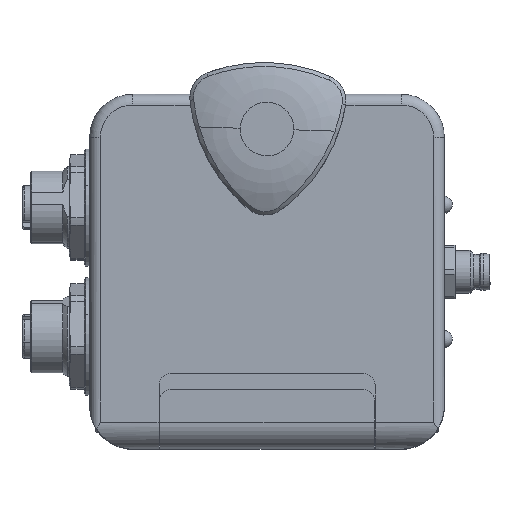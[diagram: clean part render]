
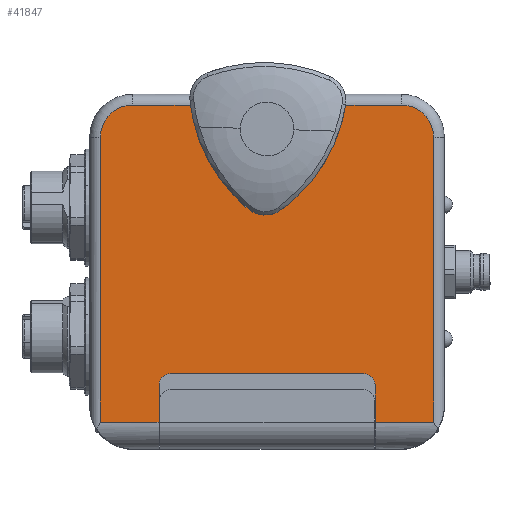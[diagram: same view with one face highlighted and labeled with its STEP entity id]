
A CAD part, top view. The second image highlights one B-rep face of the part: STEP entity #41847.
In plain terms, the highlighted planar face has unit normal (0, 0, 1) as drawn and (0, 1, 0) by its records, which use the part's own axes.
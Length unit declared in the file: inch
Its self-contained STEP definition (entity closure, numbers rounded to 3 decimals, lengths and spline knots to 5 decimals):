
#151 = ORIENTED_EDGE ( 'NONE', *, *, #14595, .T. ) ;
#215 = LINE ( 'NONE', #10954, #31751 ) ;
#734 = DIRECTION ( 'NONE',  ( 0., 0., -1. ) ) ;
#814 = ORIENTED_EDGE ( 'NONE', *, *, #19814, .T. ) ;
#855 = LINE ( 'NONE', #43340, #3380 ) ;
#955 = VECTOR ( 'NONE', #43470, 39.37008 ) ;
#975 = CIRCLE ( 'NONE', #3927, 0.08268 ) ;
#1145 = EDGE_CURVE ( 'NONE', #7227, #9435, #28672, .T. ) ;
#1317 = VERTEX_POINT ( 'NONE', #26511 ) ;
#1347 = VERTEX_POINT ( 'NONE', #29999 ) ;
#1525 = CARTESIAN_POINT ( 'NONE',  ( 0.59055, 2.3622, -1.73228 ) ) ;
#1782 = CARTESIAN_POINT ( 'NONE',  ( 2.09055, 2.3622, -2.08661 ) ) ;
#1796 = CARTESIAN_POINT ( 'NONE',  ( 1.42717, 2.3622, 0.23622 ) ) ;
#2365 = ORIENTED_EDGE ( 'NONE', *, *, #21752, .F. ) ;
#2642 = VERTEX_POINT ( 'NONE', #22461 ) ;
#3057 = EDGE_CURVE ( 'NONE', #12424, #34248, #855, .T. ) ;
#3380 = VECTOR ( 'NONE', #25617, 39.37008 ) ;
#3741 = DIRECTION ( 'NONE',  ( 0., -1., 0. ) ) ;
#3845 = AXIS2_PLACEMENT_3D ( 'NONE', #43777, #22538, #4789 ) ;
#3927 = AXIS2_PLACEMENT_3D ( 'NONE', #34025, #11300, #21823 ) ;
#4140 = CARTESIAN_POINT ( 'NONE',  ( 0.50787, 2.3622, -1.73228 ) ) ;
#4451 = DIRECTION ( 'NONE',  ( 1., 0., 0. ) ) ;
#4779 = DIRECTION ( 'NONE',  ( 0., 0., 1. ) ) ;
#4789 = DIRECTION ( 'NONE',  ( 0., 0., -1. ) ) ;
#4920 = CARTESIAN_POINT ( 'NONE',  ( 0.07874, 2.3622, 0. ) ) ;
#5016 = LINE ( 'NONE', #30249, #13273 ) ;
#5357 = EDGE_CURVE ( 'NONE', #18245, #2642, #5736, .T. ) ;
#5736 = LINE ( 'NONE', #1782, #33858 ) ;
#6986 = CARTESIAN_POINT ( 'NONE',  ( 2.28346, 2.3622, 0.23622 ) ) ;
#7227 = VERTEX_POINT ( 'NONE', #25567 ) ;
#7284 = CARTESIAN_POINT ( 'NONE',  ( 0.31496, 2.3622, 0. ) ) ;
#7709 = DIRECTION ( 'NONE',  ( 0., 0., -1. ) ) ;
#7811 = EDGE_CURVE ( 'NONE', #39084, #34047, #29361, .T. ) ;
#7875 = EDGE_LOOP ( 'NONE', ( #41591, #37557, #2365, #39068, #43017, #151, #19674, #35487, #814, #30512, #15957, #26142, #35493, #41256, #34720, #26948, #39380 ) ) ;
#8178 = CARTESIAN_POINT ( 'NONE',  ( 1.42717, 2.3622, -0.04921 ) ) ;
#8432 = CARTESIAN_POINT ( 'NONE',  ( 2.28346, 2.3622, 0.23622 ) ) ;
#8658 = DIRECTION ( 'NONE',  ( 0., 1., 0. ) ) ;
#9083 = EDGE_CURVE ( 'NONE', #26479, #9435, #35837, .T. ) ;
#9370 = EDGE_CURVE ( 'NONE', #11840, #18563, #44172, .T. ) ;
#9435 = VERTEX_POINT ( 'NONE', #19670 ) ;
#9868 = VECTOR ( 'NONE', #18566, 39.37008 ) ;
#10038 = CIRCLE ( 'NONE', #36117, 0.08268 ) ;
#10094 = VECTOR ( 'NONE', #4451, 39.37008 ) ;
#10874 = EDGE_CURVE ( 'NONE', #12424, #14998, #26180, .T. ) ;
#10954 = CARTESIAN_POINT ( 'NONE',  ( 2.51969, 2.3622, -1.9685 ) ) ;
#11300 = DIRECTION ( 'NONE',  ( 0., -1., 0. ) ) ;
#11840 = VERTEX_POINT ( 'NONE', #45092 ) ;
#12322 = CARTESIAN_POINT ( 'NONE',  ( 0.50787, 2.3622, -1.73228 ) ) ;
#12397 = VECTOR ( 'NONE', #29006, 39.37008 ) ;
#12424 = VERTEX_POINT ( 'NONE', #1796 ) ;
#12759 = VECTOR ( 'NONE', #18387, 39.37008 ) ;
#13273 = VECTOR ( 'NONE', #4779, 39.37008 ) ;
#13442 = EDGE_CURVE ( 'NONE', #22755, #39084, #975, .T. ) ;
#14479 = CARTESIAN_POINT ( 'NONE',  ( 2.00787, 2.3622, -1.73228 ) ) ;
#14595 = EDGE_CURVE ( 'NONE', #14998, #36754, #34626, .T. ) ;
#14998 = VERTEX_POINT ( 'NONE', #6986 ) ;
#15957 = ORIENTED_EDGE ( 'NONE', *, *, #7811, .T. ) ;
#18245 = VERTEX_POINT ( 'NONE', #41610 ) ;
#18249 = PLANE ( 'NONE',  #24722 ) ;
#18387 = DIRECTION ( 'NONE',  ( -1., 0., 0. ) ) ;
#18463 = CARTESIAN_POINT ( 'NONE',  ( 2.28346, 2.3622, 0. ) ) ;
#18563 = VERTEX_POINT ( 'NONE', #4920 ) ;
#18566 = DIRECTION ( 'NONE',  ( 1., 0., 0. ) ) ;
#18640 = DIRECTION ( 'NONE',  ( 0., 0., -1. ) ) ;
#18706 = DIRECTION ( 'NONE',  ( 0., 0., -1. ) ) ;
#19670 = CARTESIAN_POINT ( 'NONE',  ( 1.17126, 2.3622, 0.23622 ) ) ;
#19674 = ORIENTED_EDGE ( 'NONE', *, *, #29846, .T. ) ;
#19814 = EDGE_CURVE ( 'NONE', #2642, #22755, #5016, .T. ) ;
#20140 = VECTOR ( 'NONE', #33810, 39.37008 ) ;
#21513 = CARTESIAN_POINT ( 'NONE',  ( 0.50787, 2.3622, -2.08661 ) ) ;
#21727 = CARTESIAN_POINT ( 'NONE',  ( 0.59055, 2.3622, -1.81496 ) ) ;
#21752 = EDGE_CURVE ( 'NONE', #34248, #1347, #42256, .T. ) ;
#21823 = DIRECTION ( 'NONE',  ( 0., 0., -1. ) ) ;
#21989 = DIRECTION ( 'NONE',  ( 0., 1., 0. ) ) ;
#22461 = CARTESIAN_POINT ( 'NONE',  ( 2.09055, 2.3622, -2.08661 ) ) ;
#22538 = DIRECTION ( 'NONE',  ( 0., 1., 0. ) ) ;
#22704 = CARTESIAN_POINT ( 'NONE',  ( 0., 2.3622, -2.08661 ) ) ;
#22755 = VERTEX_POINT ( 'NONE', #43217 ) ;
#23972 = VERTEX_POINT ( 'NONE', #21513 ) ;
#24484 = EDGE_CURVE ( 'NONE', #18563, #26479, #25497, .T. ) ;
#24722 = AXIS2_PLACEMENT_3D ( 'NONE', #7284, #21989, #734 ) ;
#25497 = CIRCLE ( 'NONE', #3845, 0.23622 ) ;
#25567 = CARTESIAN_POINT ( 'NONE',  ( 1.17126, 2.3622, -0.04921 ) ) ;
#25617 = DIRECTION ( 'NONE',  ( 0., 0., -1. ) ) ;
#25627 = AXIS2_PLACEMENT_3D ( 'NONE', #18463, #39923, #43665 ) ;
#25946 = CARTESIAN_POINT ( 'NONE',  ( 1.29921, 2.3622, -0.04921 ) ) ;
#26142 = ORIENTED_EDGE ( 'NONE', *, *, #28487, .T. ) ;
#26180 = LINE ( 'NONE', #8432, #10094 ) ;
#26460 = LINE ( 'NONE', #22704, #955 ) ;
#26479 = VERTEX_POINT ( 'NONE', #34866 ) ;
#26511 = CARTESIAN_POINT ( 'NONE',  ( 0.50787, 2.3622, -1.81496 ) ) ;
#26948 = ORIENTED_EDGE ( 'NONE', *, *, #24484, .T. ) ;
#28487 = EDGE_CURVE ( 'NONE', #34047, #1317, #10038, .T. ) ;
#28672 = LINE ( 'NONE', #35881, #20140 ) ;
#29006 = DIRECTION ( 'NONE',  ( 0., 0., 1. ) ) ;
#29361 = LINE ( 'NONE', #4140, #12759 ) ;
#29469 = CARTESIAN_POINT ( 'NONE',  ( 2.51969, 2.3622, 0. ) ) ;
#29846 = EDGE_CURVE ( 'NONE', #36754, #18245, #215, .T. ) ;
#29999 = CARTESIAN_POINT ( 'NONE',  ( 1.29921, 2.3622, -0.17717 ) ) ;
#30165 = DIRECTION ( 'NONE',  ( 0., 1., 0. ) ) ;
#30249 = CARTESIAN_POINT ( 'NONE',  ( 2.09055, 2.3622, -1.73228 ) ) ;
#30512 = ORIENTED_EDGE ( 'NONE', *, *, #13442, .T. ) ;
#31751 = VECTOR ( 'NONE', #18640, 39.37008 ) ;
#32602 = EDGE_CURVE ( 'NONE', #1347, #7227, #38202, .T. ) ;
#32826 = CARTESIAN_POINT ( 'NONE',  ( 2.28346, 2.3622, 0.23622 ) ) ;
#33359 = LINE ( 'NONE', #12322, #41017 ) ;
#33434 = CARTESIAN_POINT ( 'NONE',  ( 1.29921, 2.3622, -0.04921 ) ) ;
#33810 = DIRECTION ( 'NONE',  ( 0., 0., 1. ) ) ;
#33858 = VECTOR ( 'NONE', #44492, 39.37008 ) ;
#34025 = CARTESIAN_POINT ( 'NONE',  ( 2.00787, 2.3622, -1.81496 ) ) ;
#34047 = VERTEX_POINT ( 'NONE', #1525 ) ;
#34248 = VERTEX_POINT ( 'NONE', #8178 ) ;
#34626 = CIRCLE ( 'NONE', #25627, 0.23622 ) ;
#34720 = ORIENTED_EDGE ( 'NONE', *, *, #9370, .T. ) ;
#34866 = CARTESIAN_POINT ( 'NONE',  ( 0.31496, 2.3622, 0.23622 ) ) ;
#35487 = ORIENTED_EDGE ( 'NONE', *, *, #5357, .T. ) ;
#35493 = ORIENTED_EDGE ( 'NONE', *, *, #39543, .T. ) ;
#35539 = FACE_OUTER_BOUND ( 'NONE', #7875, .T. ) ;
#35837 = LINE ( 'NONE', #32826, #9868 ) ;
#35881 = CARTESIAN_POINT ( 'NONE',  ( 1.17126, 2.3622, 0.67913 ) ) ;
#36117 = AXIS2_PLACEMENT_3D ( 'NONE', #21727, #3741, #7709 ) ;
#36754 = VERTEX_POINT ( 'NONE', #29469 ) ;
#37557 = ORIENTED_EDGE ( 'NONE', *, *, #32602, .F. ) ;
#37761 = DIRECTION ( 'NONE',  ( 0., 0., -1. ) ) ;
#38202 = CIRCLE ( 'NONE', #41178, 0.12795 ) ;
#39068 = ORIENTED_EDGE ( 'NONE', *, *, #3057, .F. ) ;
#39084 = VERTEX_POINT ( 'NONE', #14479 ) ;
#39380 = ORIENTED_EDGE ( 'NONE', *, *, #9083, .T. ) ;
#39543 = EDGE_CURVE ( 'NONE', #1317, #23972, #33359, .T. ) ;
#39700 = DIRECTION ( 'NONE',  ( 0., 0., -1. ) ) ;
#39923 = DIRECTION ( 'NONE',  ( 0., 1., 0. ) ) ;
#41017 = VECTOR ( 'NONE', #37761, 39.37008 ) ;
#41178 = AXIS2_PLACEMENT_3D ( 'NONE', #25946, #30165, #18706 ) ;
#41256 = ORIENTED_EDGE ( 'NONE', *, *, #45291, .T. ) ;
#41491 = AXIS2_PLACEMENT_3D ( 'NONE', #33434, #8658, #39700 ) ;
#41591 = ORIENTED_EDGE ( 'NONE', *, *, #1145, .F. ) ;
#41610 = CARTESIAN_POINT ( 'NONE',  ( 2.51969, 2.3622, -2.08661 ) ) ;
#41847 = ADVANCED_FACE ( 'NONE', ( #35539 ), #18249, .T. ) ;
#42256 = CIRCLE ( 'NONE', #41491, 0.12795 ) ;
#43017 = ORIENTED_EDGE ( 'NONE', *, *, #10874, .T. ) ;
#43217 = CARTESIAN_POINT ( 'NONE',  ( 2.09055, 2.3622, -1.81496 ) ) ;
#43233 = CARTESIAN_POINT ( 'NONE',  ( 0.07874, 2.3622, 0. ) ) ;
#43340 = CARTESIAN_POINT ( 'NONE',  ( 1.42717, 2.3622, 0.67913 ) ) ;
#43470 = DIRECTION ( 'NONE',  ( -1., 0., 0. ) ) ;
#43665 = DIRECTION ( 'NONE',  ( 0., 0., -1. ) ) ;
#43777 = CARTESIAN_POINT ( 'NONE',  ( 0.31496, 2.3622, 0. ) ) ;
#44172 = LINE ( 'NONE', #43233, #12397 ) ;
#44492 = DIRECTION ( 'NONE',  ( -1., 0., 0. ) ) ;
#45092 = CARTESIAN_POINT ( 'NONE',  ( 0.07874, 2.3622, -2.08661 ) ) ;
#45291 = EDGE_CURVE ( 'NONE', #23972, #11840, #26460, .T. ) ;
